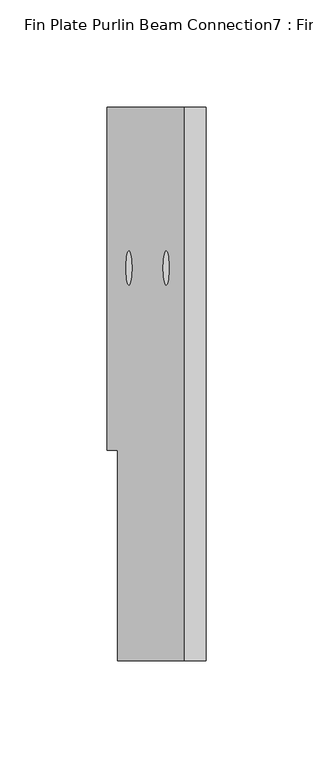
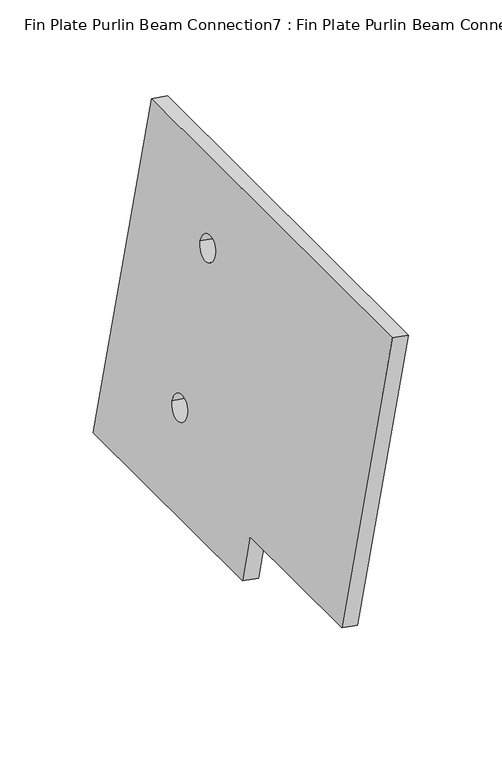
"""IFC4 building model written with IfcOpenShell, lengths in millimetres: proxy geometry, Fin Plate Purlin Beam Connection7 : Fin Plate Purlin Beam Connection."""

import ifcopenshell
import ifcopenshell.guid

model = None  # the IFC model being written
_history = None  # IfcOwnerHistory: only IFC2X3 demands one
_inside = {}  # id of a spatial element -> (the spatial element, [elements in it])
_under = {}  # id of a project, library or spatial element -> (it, [spatial elements below it])
_declared = {}  # id of a project -> (the project, [libraries it declares])
_typed = {}  # id of a type object -> (the type object, [elements of that type])
_made_of = {}  # id of a material, layer set ... -> (it, [elements and type objects made of it])


def new_model(schema):
    """Start an empty IFC model of exactly this schema.

    Asked for "IFC4X3", IfcOpenShell would pick the latest addendum, in which some entities
    have other attributes; the version numbers below select the first issue.
    IFC2X3 requires an IfcOwnerHistory on every rooted entity: one is made here for all.
    """
    global model, _history
    if schema == "IFC4X3":
        model = ifcopenshell.file(schema_version=(4, 3, 0, 0))
    else:
        model = ifcopenshell.file(schema=schema)
    _inside.clear()
    _under.clear()
    _declared.clear()
    _typed.clear()
    _made_of.clear()
    _history = None
    if model.schema == "IFC2X3":
        org = make("IfcOrganization", Name="unknown")
        user = make(
            "IfcPersonAndOrganization",
            ThePerson=make("IfcPerson", FamilyName="unknown"),
            TheOrganization=org,
        )
        app = make(
            "IfcApplication",
            ApplicationDeveloper=org,
            Version="unknown",
            ApplicationFullName="unknown",
            ApplicationIdentifier="unknown",
        )
        _history = make(
            "IfcOwnerHistory",
            OwningUser=user,
            OwningApplication=app,
            ChangeAction="ADDED",
            CreationDate=0,
        )
    return model


def make(cls, **values):
    """One entity of the class cls with the attributes given. An attribute that is None is left unset."""
    return model.create_entity(
        cls, **{name: value for name, value in values.items() if value is not None}
    )


def rooted(cls, **values):
    """An entity with a GlobalId (a new one), such as an element, a storey or a relation."""
    return make(cls, GlobalId=ifcopenshell.guid.new(), OwnerHistory=_history, **values)


def si_unit(unit_type, name, prefix=None):
    """IfcSIUnit, for example si_unit("LENGTHUNIT", "METRE", prefix="MILLI")."""
    return make("IfcSIUnit", UnitType=unit_type, Prefix=prefix, Name=name)


def assignment(units):
    """IfcUnitAssignment: the units of a project."""
    return None if units is None else make("IfcUnitAssignment", Units=units)


def point(xyz):
    """IfcCartesianPoint."""
    return None if xyz is None else make("IfcCartesianPoint", Coordinates=xyz)


def direction(xyz):
    """IfcDirection."""
    return None if xyz is None else make("IfcDirection", DirectionRatios=xyz)


def frame(location, z_axis=None, x_axis=None):
    """IfcAxis2Placement3D, a coordinate frame: its origin and axes. An axis left out is left unset."""
    return make(
        "IfcAxis2Placement3D",
        Location=point(location),
        Axis=direction(z_axis),
        RefDirection=direction(x_axis),
    )


def frame_2d(location, x_axis=None):
    """IfcAxis2Placement2D, a coordinate frame in the plane: its origin and x axis."""
    return make(
        "IfcAxis2Placement2D", Location=point(location), RefDirection=direction(x_axis)
    )


def origin():
    """The frame at (0, 0, 0) with its axes left unset."""
    return frame((0.0, 0.0, 0.0))


def place(relative_to, where):
    """IfcLocalPlacement: puts the frame where relative to a parent placement (None: the world)."""
    return make(
        "IfcLocalPlacement", PlacementRelTo=relative_to, RelativePlacement=where
    )


def context(
    kind, dimensions, precision=None, world=None, true_north=None, identifier=None
):
    """IfcGeometricRepresentationContext, for example the 3D "Model" context."""
    return make(
        "IfcGeometricRepresentationContext",
        ContextIdentifier=identifier,
        ContextType=kind,
        CoordinateSpaceDimension=dimensions,
        Precision=precision,
        WorldCoordinateSystem=world,
        TrueNorth=true_north,
    )


def project(units=None, contexts=None):
    """IfcProject with its units and contexts."""
    return rooted(
        "IfcProject",
        Name="project",
        RepresentationContexts=contexts,
        UnitsInContext=assignment(units),
    )


def spatial(cls, under=None, at=None, **own):
    """A site, building, storey or space (cls), placed at a placement, below another one or the project."""
    s = rooted(cls, ObjectPlacement=at, **own)
    if under is not None:
        _under.setdefault(under.id(), (under, []))[1].append(s)
    return s


def polyline(points):
    """IfcPolyline through the points."""
    return make("IfcPolyline", Points=[point(p) for p in points])


def circle_curve(where, radius):
    """IfcCircle in the frame where."""
    return make("IfcCircle", Position=where, Radius=radius)


def trimmed(basis, trim1, trim2, sense, master):
    """IfcTrimmedCurve: the piece of a basis curve between two trims."""
    return make(
        "IfcTrimmedCurve",
        BasisCurve=basis,
        Trim1=trim1,
        Trim2=trim2,
        SenseAgreement=sense,
        MasterRepresentation=master,
    )


def segment(curve, same_sense, transition):
    """IfcCompositeCurveSegment."""
    return make(
        "IfcCompositeCurveSegment",
        Transition=transition,
        SameSense=same_sense,
        ParentCurve=curve,
    )


def composite_curve(segments, self_intersect=None):
    """IfcCompositeCurve: segments joined end to end."""
    return make("IfcCompositeCurve", Segments=segments, SelfIntersect=self_intersect)


def outline(outer, holes=None, kind="AREA"):
    """IfcArbitraryClosedProfileDef: a profile drawn as a closed curve; with holes, ...WithVoids."""
    if holes is None:
        return make("IfcArbitraryClosedProfileDef", ProfileType=kind, OuterCurve=outer)
    return make(
        "IfcArbitraryProfileDefWithVoids",
        ProfileType=kind,
        OuterCurve=outer,
        InnerCurves=holes,
    )


def extrude(swept, where, along, depth):
    """IfcExtrudedAreaSolid: the profile swept, set in the frame where, extruded along a direction by depth."""
    return make(
        "IfcExtrudedAreaSolid",
        SweptArea=swept,
        Position=where,
        ExtrudedDirection=direction(along),
        Depth=depth,
    )


def shape(context_of_items, identifier, shape_type, items):
    """IfcShapeRepresentation: the items that make up one representation, for example the "Body"."""
    return make(
        "IfcShapeRepresentation",
        ContextOfItems=context_of_items,
        RepresentationIdentifier=identifier,
        RepresentationType=shape_type,
        Items=items,
    )


def source(mapping_origin, context_of_items, identifier, shape_type, items):
    """IfcRepresentationMap: a shape defined once, which mapped items show again and again."""
    return make(
        "IfcRepresentationMap",
        MappingOrigin=mapping_origin,
        MappedRepresentation=shape(context_of_items, identifier, shape_type, items),
    )


def transform(
    local_origin,
    x_axis=None,
    y_axis=None,
    z_axis=None,
    scale=None,
    scale2=None,
    scale3=None,
    uniform=True,
):
    """IfcCartesianTransformationOperator3D, or its non-uniform kind. x_axis, y_axis, z_axis: its Axis1, 2, 3."""
    if uniform:
        return make(
            "IfcCartesianTransformationOperator3D",
            Axis1=direction(x_axis),
            Axis2=direction(y_axis),
            LocalOrigin=point(local_origin),
            Scale=scale,
            Axis3=direction(z_axis),
        )
    return make(
        "IfcCartesianTransformationOperator3DnonUniform",
        Axis1=direction(x_axis),
        Axis2=direction(y_axis),
        LocalOrigin=point(local_origin),
        Scale=scale,
        Axis3=direction(z_axis),
        Scale2=scale2,
        Scale3=scale3,
    )


def mapped(mapping_source, mapping_target):
    """IfcMappedItem: shows the shape of a source again, moved by a transform."""
    return make(
        "IfcMappedItem", MappingSource=mapping_source, MappingTarget=mapping_target
    )


def made_of(thing, what):
    """Note that an element or type object is made of a material, layer set ...; save() writes the relation."""
    if what is not None:
        _made_of.setdefault(what.id(), (what, []))[1].append(thing)
    return thing


def element(
    cls,
    number,
    at=None,
    inside=None,
    cuts=None,
    type_object=None,
    material=None,
    context=None,
    identifier="Body",
    shape_type=None,
    held_by="IfcProductDefinitionShape",
    body=None,
    shapes=None,
    **own,
):
    """One element of the class cls, such as IfcWall. Its Tag is "e" and its number.

    at: its placement. inside: the storey or other place that contains it. cuts: it is an
    opening in that element (IfcRelVoidsElement). A single representation is given by context,
    identifier, shape_type and body (its items); several are given by shapes. held_by: the class
    of the entity that holds the representations. save() writes the other relations.
    """
    e = rooted(cls, Tag="e%d" % number, ObjectPlacement=at, **own)
    if body is not None:
        shapes = [shape(context, identifier, shape_type, body)]
    if shapes is not None:
        e.Representation = make(held_by, Representations=shapes)
    if inside is not None:
        _inside.setdefault(inside.id(), (inside, []))[1].append(e)
    if cuts is not None:
        rooted(
            "IfcRelVoidsElement", RelatingBuildingElement=cuts, RelatedOpeningElement=e
        )
    if type_object is not None:
        _typed.setdefault(type_object.id(), (type_object, []))[1].append(e)
    return made_of(e, material)


def aggregate(whole, parts):
    """IfcRelAggregates: a whole, such as a stair, and the parts it consists of."""
    return rooted("IfcRelAggregates", RelatingObject=whole, RelatedObjects=parts)


def save(model, path):
    """Write the relations noted so far, then the file.

    IfcRelAggregates (storeys below a building ...), IfcRelContainedInSpatialStructure (elements
    in a storey), IfcRelDefinesByType, IfcRelAssociatesMaterial and IfcRelDeclares: one each for
    every whole, place, type object, material and project.
    """
    for whole, parts in _under.values():
        aggregate(whole, parts)
    for where, things in _inside.values():
        rooted(
            "IfcRelContainedInSpatialStructure",
            RelatedElements=things,
            RelatingStructure=where,
        )
    for kind, things in _typed.values():
        rooted("IfcRelDefinesByType", RelatedObjects=things, RelatingType=kind)
    for what, things in _made_of.values():
        rooted("IfcRelAssociatesMaterial", RelatedObjects=things, RelatingMaterial=what)
    for by, libraries in _declared.values():
        rooted("IfcRelDeclares", RelatingContext=by, RelatedDefinitions=libraries)
    model.write(path)


def fin_plate_purlin_beam_connection7_fin_plate_purlin_beam_6425c43f(model_context):
    return source(origin(), model_context, "Body", "SweptSolid", [
        extrude(outline(polyline([(181.2383863, 0.0), (181.2383863, -98.2), (208.9560484, -98.2), (208.9560484, -258.2), (0.0, -258.2), (0.0, 0.0), (181.2383863, 0.0)]), holes=[composite_curve([segment(trimmed(circle_curve(frame_2d((50.0, -183.2)), 8.0), [point((50.0, -175.2))], [point((50.0, -191.2))], True, "CARTESIAN"), True, "CONTINUOUS"), segment(trimmed(circle_curve(frame_2d((50.0, -183.2)), 8.0), [point((50.0, -191.2))], [point((50.0, -175.2))], True, "CARTESIAN"), True, "CONTINUOUS")], self_intersect=False), composite_curve([segment(trimmed(circle_curve(frame_2d((150.0, -183.2)), 8.0), [point((150.0, -175.2))], [point((150.0, -191.2))], True, "CARTESIAN"), True, "CONTINUOUS"), segment(trimmed(circle_curve(frame_2d((150.0, -183.2)), 8.0), [point((150.0, -191.2))], [point((150.0, -175.2))], True, "CARTESIAN"), True, "CONTINUOUS")], self_intersect=False)]), frame((-34150.5847622, 11055.4549517, 3849.8118312), z_axis=(-0.9848077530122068, 0.0, 0.17364817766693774), x_axis=(-0.17364817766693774, 0.0, -0.9848077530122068)), (0.0, 0.0, 1.0), 10.0),
    ])


if __name__ == "__main__":
    model = new_model("IFC4")
    model_context = context("Model", 3, world=origin())
    ifc_project = project(units=[si_unit("LENGTHUNIT", "METRE", prefix="MILLI")], contexts=[model_context])
    site = spatial("IfcSite", under=ifc_project)
    building = spatial("IfcBuilding", under=site)
    placement = place(None, origin())
    fin_plate_purlin_beam_connection7_fin_plate_purlin_beam_shape = fin_plate_purlin_beam_connection7_fin_plate_purlin_beam_6425c43f(model_context)
    element("IfcBuildingElementProxy", 1, Name="Fin Plate Purlin Beam Connection7 : Fin Plate Purlin Beam Connection", ObjectType="Fin Plate Purlin Beam Connection7 : Fin Plate Purlin Beam Connection", at=placement, inside=building, context=model_context, shape_type="MappedRepresentation", body=[
        mapped(fin_plate_purlin_beam_connection7_fin_plate_purlin_beam_shape, transform((0.0, 0.0, 0.0), x_axis=(1.0, 0.0, 0.0), y_axis=(0.0, 1.0, 0.0), z_axis=(0.0, 0.0, 1.0))),
    ])
    save(model, "model.ifc")
